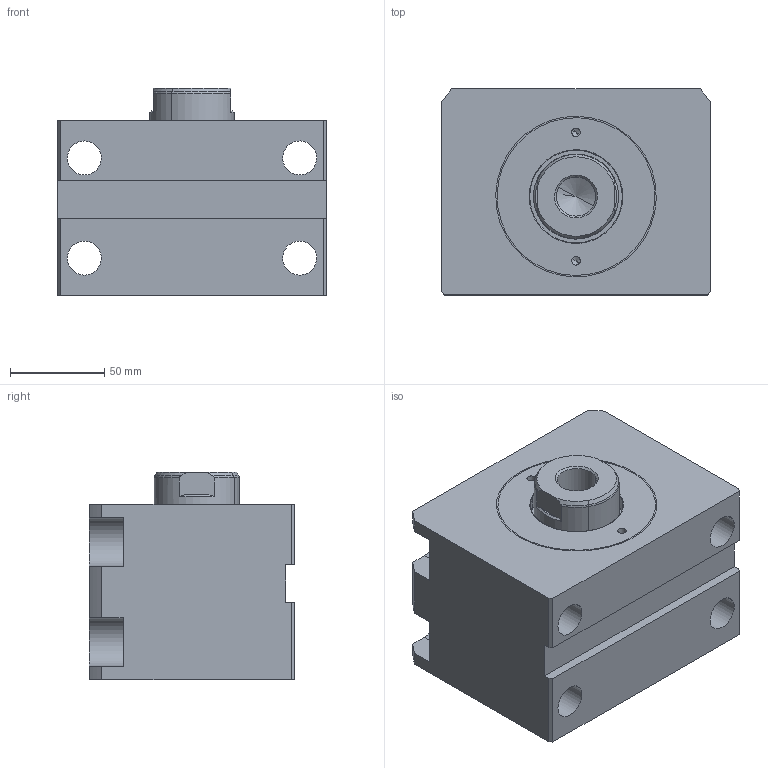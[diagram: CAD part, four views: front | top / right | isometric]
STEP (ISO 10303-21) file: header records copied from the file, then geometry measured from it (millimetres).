
FILE_DESCRIPTION(('CATIA V5 STEP Exchange'),'2;1');
FILE_NAME('\\kjf-102\KJF_TC\Hydraulic_Clamp\Standard\BLOCK_CLAMP\BDx-80xx\BDH-8015_-.stp','2025-10-28T08:06:42+00:00',('none'),('none'),'CATIA Version 5 Release 19 SP 6 (IN-10)','CATIA V5 STEP AP203','none');
FILE_SCHEMA(('CONFIG_CONTROL_DESIGN'));
Length unit declared in the file: millimetre
Products named in the file (1): BDH-80xx_-
Assembly tree (3 placements, depth 2):
  BDH-80xx_-
    #58
    #1720
    #2410
Bounding box: 142 x 109 x 110 mm (x, y, z)
Volume: 1148011.4 mm3; surface area: 159373 mm2
Topology: 3 solids, 3 shells, 108 faces, 272 edges, 169 vertices
Faces by surface type: cylinder 46, plane 34, cone 20, torus 8
Entity records: 3013 total; most frequent: CARTESIAN_POINT 574, ORIENTED_EDGE 524, DIRECTION 384, EDGE_CURVE 262, AXIS2_PLACEMENT_3D 187, VERTEX_POINT 169, VECTOR 130, LINE 130
